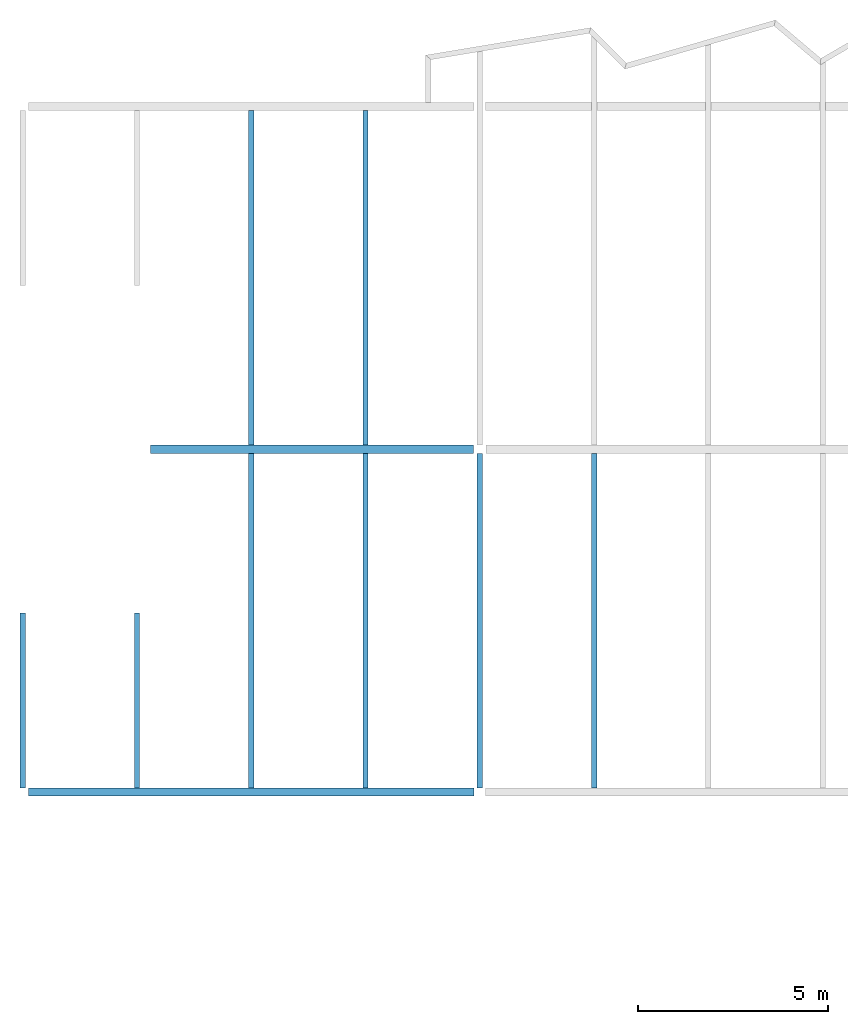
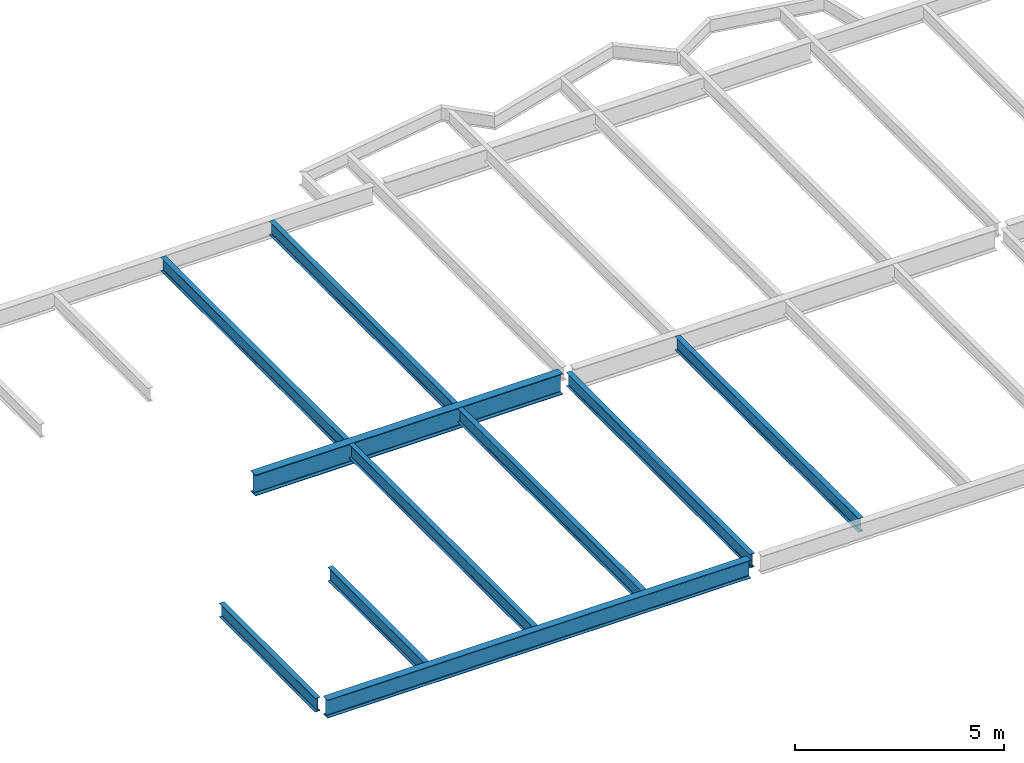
# One storey, part 5 of 26: 10 beams.
"""IFC2X3 building model written with IfcOpenShell, lengths in millimetres."""

from ifc_helpers import new_model, si_unit, origin, place, context, project, spatial, faceted_brep, material, element, save


model = new_model("IFC2X3")

# Units and contexts
context_of_model = context(None, 3, precision=1e-05, world=origin())
ifc_project = project(units=[si_unit("LENGTHUNIT", "METRE", prefix="MILLI")], contexts=[context_of_model])

# Building, storey
building = spatial("IfcBuilding", under=ifc_project, Name="Building", CompositionType="ELEMENT")
storey = spatial("IfcBuildingStorey", under=building, Name="FL4-FRM", CompositionType="ELEMENT")

# Beams
ifc_material_1 = material(Name="A992")
beam_1_placement = place(None, origin())
element("IfcBeam", 1, at=beam_1_placement, inside=storey, material=ifc_material_1, Name="B23", context=context_of_model, shape_type="Brep", body=[
    faceted_brep([(-51070.0, 35895.5, 12974.0), (-50930.0, 35895.5, 12974.0), (-50930.0, 27114.5, 12974.0), (-51070.0, 27114.5, 12974.0), (-50930.0, 35895.5, 12982.8), (-50930.0, 27114.5, 12982.8), (-50986.6, 35895.5, 12982.8), (-50986.6, 27114.5, 12982.8), (-50989.2, 35895.5, 12983.1), (-50989.2, 27114.5, 12983.1), (-50991.7, 35895.5, 12984.2), (-50991.7, 27114.5, 12984.2), (-50993.8, 35895.5, 12985.8), (-50993.8, 27114.5, 12985.8), (-50995.4, 35895.5, 12987.9), (-50995.4, 27114.5, 12987.9), (-50996.5, 35895.5, 12990.4), (-50996.5, 27114.5, 12990.4), (-50996.8, 35895.5, 12993.0), (-50996.8, 27114.5, 12993.0), (-50996.8, 35895.5, 13354.0), (-50996.8, 27114.5, 13354.0), (-50996.5, 35895.5, 13356.6), (-50996.5, 27114.5, 13356.6), (-50995.4, 35895.5, 13359.1), (-50995.4, 27114.5, 13359.1), (-50993.8, 35895.5, 13361.2), (-50993.8, 27114.5, 13361.2), (-50991.7, 35895.5, 13362.8), (-50991.7, 27114.5, 13362.8), (-50989.2, 35895.5, 13363.9), (-50989.2, 27114.5, 13363.9), (-50986.6, 35895.5, 13364.2), (-50986.6, 27114.5, 13364.2), (-50930.0, 35895.5, 13364.2), (-50930.0, 27114.5, 13364.2), (-50930.0, 35895.5, 13373.0), (-50930.0, 27114.5, 13373.0), (-51070.0, 35895.5, 13373.0), (-51070.0, 27114.5, 13373.0), (-51070.0, 35895.5, 13364.2), (-51070.0, 27114.5, 13364.2), (-51013.4, 35895.5, 13364.2), (-51013.4, 27114.5, 13364.2), (-51010.8, 35895.5, 13363.9), (-51010.8, 27114.5, 13363.9), (-51008.3, 35895.5, 13362.8), (-51008.3, 27114.5, 13362.8), (-51006.2, 35895.5, 13361.2), (-51006.2, 27114.5, 13361.2), (-51004.6, 35895.5, 13359.1), (-51004.6, 27114.5, 13359.1), (-51003.5, 35895.5, 13356.6), (-51003.5, 27114.5, 13356.6), (-51003.2, 35895.5, 13354.0), (-51003.2, 27114.5, 13354.0), (-51003.2, 35895.5, 12993.0), (-51003.2, 27114.5, 12993.0), (-51003.5, 35895.5, 12990.4), (-51003.5, 27114.5, 12990.4), (-51004.6, 35895.5, 12987.9), (-51004.6, 27114.5, 12987.9), (-51006.2, 35895.5, 12985.8), (-51006.2, 27114.5, 12985.8), (-51008.3, 35895.5, 12984.2), (-51008.3, 27114.5, 12984.2), (-51010.8, 35895.5, 12983.1), (-51010.8, 27114.5, 12983.1), (-51013.4, 35895.5, 12982.8), (-51013.4, 27114.5, 12982.8), (-51070.0, 35895.5, 12982.8), (-51070.0, 27114.5, 12982.8)], [[[0, 1, 2, 3]], [[1, 4, 5, 2]], [[4, 6, 7, 5]], [[6, 8, 9, 7]], [[8, 10, 11, 9]], [[10, 12, 13, 11]], [[12, 14, 15, 13]], [[14, 16, 17, 15]], [[16, 18, 19, 17]], [[18, 20, 21, 19]], [[20, 22, 23, 21]], [[22, 24, 25, 23]], [[24, 26, 27, 25]], [[26, 28, 29, 27]], [[28, 30, 31, 29]], [[30, 32, 33, 31]], [[32, 34, 35, 33]], [[34, 36, 37, 35]], [[36, 38, 39, 37]], [[38, 40, 41, 39]], [[40, 42, 43, 41]], [[42, 44, 45, 43]], [[44, 46, 47, 45]], [[46, 48, 49, 47]], [[48, 50, 51, 49]], [[50, 52, 53, 51]], [[52, 54, 55, 53]], [[54, 56, 57, 55]], [[56, 58, 59, 57]], [[58, 60, 61, 59]], [[60, 62, 63, 61]], [[62, 64, 65, 63]], [[64, 66, 67, 65]], [[66, 68, 69, 67]], [[68, 70, 71, 69]], [[70, 0, 3, 71]], [[0, 70, 68, 66, 64, 62, 60, 58, 56, 54, 52, 50, 48, 46, 44, 42, 40, 38, 36, 34, 32, 30, 28, 26, 24, 22, 20, 18, 16, 14, 12, 10, 8, 6, 4, 1]], [[3, 2, 5, 7, 9, 11, 13, 15, 17, 19, 21, 23, 25, 27, 29, 31, 33, 35, 37, 39, 41, 43, 45, 47, 49, 51, 53, 55, 57, 59, 61, 63, 65, 67, 69, 71]]]),
])
ifc_material_2 = material(Name="A992")
beam_2_placement = place(None, origin())
element("IfcBeam", 2, at=beam_2_placement, inside=storey, material=ifc_material_2, Name="B24", context=context_of_model, shape_type="Brep", body=[
    faceted_brep([(-54070.0, 35895.5, 12974.0), (-53930.0, 35895.5, 12974.0), (-53930.0, 27114.5, 12974.0), (-54070.0, 27114.5, 12974.0), (-53930.0, 35895.5, 12982.8), (-53930.0, 27114.5, 12982.8), (-53986.6, 35895.5, 12982.8), (-53986.6, 27114.5, 12982.8), (-53989.2, 35895.5, 12983.1), (-53989.2, 27114.5, 12983.1), (-53991.7, 35895.5, 12984.2), (-53991.7, 27114.5, 12984.2), (-53993.8, 35895.5, 12985.8), (-53993.8, 27114.5, 12985.8), (-53995.4, 35895.5, 12987.9), (-53995.4, 27114.5, 12987.9), (-53996.5, 35895.5, 12990.4), (-53996.5, 27114.5, 12990.4), (-53996.8, 35895.5, 12993.0), (-53996.8, 27114.5, 12993.0), (-53996.8, 35895.5, 13354.0), (-53996.8, 27114.5, 13354.0), (-53996.5, 35895.5, 13356.6), (-53996.5, 27114.5, 13356.6), (-53995.4, 35895.5, 13359.1), (-53995.4, 27114.5, 13359.1), (-53993.8, 35895.5, 13361.2), (-53993.8, 27114.5, 13361.2), (-53991.7, 35895.5, 13362.8), (-53991.7, 27114.5, 13362.8), (-53989.2, 35895.5, 13363.9), (-53989.2, 27114.5, 13363.9), (-53986.6, 35895.5, 13364.2), (-53986.6, 27114.5, 13364.2), (-53930.0, 35895.5, 13364.2), (-53930.0, 27114.5, 13364.2), (-53930.0, 35895.5, 13373.0), (-53930.0, 27114.5, 13373.0), (-54070.0, 35895.5, 13373.0), (-54070.0, 27114.5, 13373.0), (-54070.0, 35895.5, 13364.2), (-54070.0, 27114.5, 13364.2), (-54013.4, 35895.5, 13364.2), (-54013.4, 27114.5, 13364.2), (-54010.8, 35895.5, 13363.9), (-54010.8, 27114.5, 13363.9), (-54008.3, 35895.5, 13362.8), (-54008.3, 27114.5, 13362.8), (-54006.2, 35895.5, 13361.2), (-54006.2, 27114.5, 13361.2), (-54004.6, 35895.5, 13359.1), (-54004.6, 27114.5, 13359.1), (-54003.5, 35895.5, 13356.6), (-54003.5, 27114.5, 13356.6), (-54003.2, 35895.5, 13354.0), (-54003.2, 27114.5, 13354.0), (-54003.2, 35895.5, 12993.0), (-54003.2, 27114.5, 12993.0), (-54003.5, 35895.5, 12990.4), (-54003.5, 27114.5, 12990.4), (-54004.6, 35895.5, 12987.9), (-54004.6, 27114.5, 12987.9), (-54006.2, 35895.5, 12985.8), (-54006.2, 27114.5, 12985.8), (-54008.3, 35895.5, 12984.2), (-54008.3, 27114.5, 12984.2), (-54010.8, 35895.5, 12983.1), (-54010.8, 27114.5, 12983.1), (-54013.4, 35895.5, 12982.8), (-54013.4, 27114.5, 12982.8), (-54070.0, 35895.5, 12982.8), (-54070.0, 27114.5, 12982.8)], [[[0, 1, 2, 3]], [[1, 4, 5, 2]], [[4, 6, 7, 5]], [[6, 8, 9, 7]], [[8, 10, 11, 9]], [[10, 12, 13, 11]], [[12, 14, 15, 13]], [[14, 16, 17, 15]], [[16, 18, 19, 17]], [[18, 20, 21, 19]], [[20, 22, 23, 21]], [[22, 24, 25, 23]], [[24, 26, 27, 25]], [[26, 28, 29, 27]], [[28, 30, 31, 29]], [[30, 32, 33, 31]], [[32, 34, 35, 33]], [[34, 36, 37, 35]], [[36, 38, 39, 37]], [[38, 40, 41, 39]], [[40, 42, 43, 41]], [[42, 44, 45, 43]], [[44, 46, 47, 45]], [[46, 48, 49, 47]], [[48, 50, 51, 49]], [[50, 52, 53, 51]], [[52, 54, 55, 53]], [[54, 56, 57, 55]], [[56, 58, 59, 57]], [[58, 60, 61, 59]], [[60, 62, 63, 61]], [[62, 64, 65, 63]], [[64, 66, 67, 65]], [[66, 68, 69, 67]], [[68, 70, 71, 69]], [[70, 0, 3, 71]], [[0, 70, 68, 66, 64, 62, 60, 58, 56, 54, 52, 50, 48, 46, 44, 42, 40, 38, 36, 34, 32, 30, 28, 26, 24, 22, 20, 18, 16, 14, 12, 10, 8, 6, 4, 1]], [[3, 2, 5, 7, 9, 11, 13, 15, 17, 19, 21, 23, 25, 27, 29, 31, 33, 35, 37, 39, 41, 43, 45, 47, 49, 51, 53, 55, 57, 59, 61, 63, 65, 67, 69, 71]]]),
])
ifc_material_3 = material(Name="A992")
beam_3_placement = place(None, origin())
element("IfcBeam", 3, at=beam_3_placement, inside=storey, material=ifc_material_3, Name="Column378", context=context_of_model, shape_type="Brep", body=[
    faceted_brep([(-59848.5, 17895.5, 12845.0), (-59848.5, 18104.5, 12845.0), (-48154.0, 18104.5, 12845.0), (-48154.0, 17895.5, 12845.0), (-59848.5, 18104.5, 12858.3), (-48154.0, 18104.5, 12858.3), (-59848.5, 18017.4, 12858.3), (-48154.0, 18017.4, 12858.3), (-59848.5, 18014.2, 12858.7), (-48154.0, 18014.2, 12858.7), (-59848.5, 18011.1, 12860.0), (-48154.0, 18011.1, 12860.0), (-59848.5, 18008.5, 12862.0), (-48154.0, 18008.5, 12862.0), (-59848.5, 18006.5, 12864.7), (-48154.0, 18006.5, 12864.7), (-59848.5, 18005.2, 12867.7), (-48154.0, 18005.2, 12867.7), (-59848.5, 18004.8, 12871.0), (-48154.0, 18004.8, 12871.0), (-59848.5, 18004.8, 13347.0), (-48154.0, 18004.8, 13347.0), (-59848.5, 18005.2, 13350.3), (-48154.0, 18005.2, 13350.3), (-59848.5, 18006.5, 13353.3), (-48154.0, 18006.5, 13353.3), (-59848.5, 18008.5, 13356.0), (-48154.0, 18008.5, 13356.0), (-59848.5, 18011.1, 13358.0), (-48154.0, 18011.1, 13358.0), (-59848.5, 18014.2, 13359.3), (-48154.0, 18014.2, 13359.3), (-59848.5, 18017.4, 13359.7), (-48154.0, 18017.4, 13359.7), (-59848.5, 18104.5, 13359.7), (-48154.0, 18104.5, 13359.7), (-59848.5, 18104.5, 13373.0), (-48154.0, 18104.5, 13373.0), (-59848.5, 17895.5, 13373.0), (-48154.0, 17895.5, 13373.0), (-59848.5, 17895.5, 13359.7), (-48154.0, 17895.5, 13359.7), (-59848.5, 17982.6, 13359.7), (-48154.0, 17982.6, 13359.7), (-59848.5, 17985.8, 13359.3), (-48154.0, 17985.8, 13359.3), (-59848.5, 17988.9, 13358.0), (-48154.0, 17988.9, 13358.0), (-59848.5, 17991.5, 13356.0), (-48154.0, 17991.5, 13356.0), (-59848.5, 17993.5, 13353.3), (-48154.0, 17993.5, 13353.3), (-59848.5, 17994.8, 13350.3), (-48154.0, 17994.8, 13350.3), (-59848.5, 17995.3, 13347.0), (-48154.0, 17995.3, 13347.0), (-59848.5, 17995.3, 12871.0), (-48154.0, 17995.3, 12871.0), (-59848.5, 17994.8, 12867.7), (-48154.0, 17994.8, 12867.7), (-59848.5, 17993.5, 12864.7), (-48154.0, 17993.5, 12864.7), (-59848.5, 17991.5, 12862.0), (-48154.0, 17991.5, 12862.0), (-59848.5, 17988.9, 12860.0), (-48154.0, 17988.9, 12860.0), (-59848.5, 17985.8, 12858.7), (-48154.0, 17985.8, 12858.7), (-59848.5, 17982.6, 12858.3), (-48154.0, 17982.6, 12858.3), (-59848.5, 17895.5, 12858.3), (-48154.0, 17895.5, 12858.3)], [[[0, 1, 2, 3]], [[1, 4, 5, 2]], [[4, 6, 7, 5]], [[6, 8, 9, 7]], [[8, 10, 11, 9]], [[10, 12, 13, 11]], [[12, 14, 15, 13]], [[14, 16, 17, 15]], [[16, 18, 19, 17]], [[18, 20, 21, 19]], [[20, 22, 23, 21]], [[22, 24, 25, 23]], [[24, 26, 27, 25]], [[26, 28, 29, 27]], [[28, 30, 31, 29]], [[30, 32, 33, 31]], [[32, 34, 35, 33]], [[34, 36, 37, 35]], [[36, 38, 39, 37]], [[38, 40, 41, 39]], [[40, 42, 43, 41]], [[42, 44, 45, 43]], [[44, 46, 47, 45]], [[46, 48, 49, 47]], [[48, 50, 51, 49]], [[50, 52, 53, 51]], [[52, 54, 55, 53]], [[54, 56, 57, 55]], [[56, 58, 59, 57]], [[58, 60, 61, 59]], [[60, 62, 63, 61]], [[62, 64, 65, 63]], [[64, 66, 67, 65]], [[66, 68, 69, 67]], [[68, 70, 71, 69]], [[70, 0, 3, 71]], [[0, 70, 68, 66, 64, 62, 60, 58, 56, 54, 52, 50, 48, 46, 44, 42, 40, 38, 36, 34, 32, 30, 28, 26, 24, 22, 20, 18, 16, 14, 12, 10, 8, 6, 4, 1]], [[3, 2, 5, 7, 9, 11, 13, 15, 17, 19, 21, 23, 25, 27, 29, 31, 33, 35, 37, 39, 41, 43, 45, 47, 49, 51, 53, 55, 57, 59, 61, 63, 65, 67, 69, 71]]]),
])
ifc_material_4 = material(Name="A992")
beam_4_placement = place(None, origin())
element("IfcBeam", 4, at=beam_4_placement, inside=storey, material=ifc_material_4, Name="B188", context=context_of_model, shape_type="Brep", body=[
    faceted_brep([(-47930.0, 18104.5, 12974.0), (-48070.0, 18104.5, 12974.0), (-48070.0, 26885.5, 12974.0), (-47930.0, 26885.5, 12974.0), (-48070.0, 18104.5, 12982.8), (-48070.0, 26885.5, 12982.8), (-48013.4, 18104.5, 12982.8), (-48013.4, 26885.5, 12982.8), (-48010.8, 18104.5, 12983.1), (-48010.8, 26885.5, 12983.1), (-48008.3, 18104.5, 12984.2), (-48008.3, 26885.5, 12984.2), (-48006.2, 18104.5, 12985.8), (-48006.2, 26885.5, 12985.8), (-48004.6, 18104.5, 12987.9), (-48004.6, 26885.5, 12987.9), (-48003.5, 18104.5, 12990.4), (-48003.5, 26885.5, 12990.4), (-48003.2, 18104.5, 12993.0), (-48003.2, 26885.5, 12993.0), (-48003.2, 18104.5, 13354.0), (-48003.2, 26885.5, 13354.0), (-48003.5, 18104.5, 13356.6), (-48003.5, 26885.5, 13356.6), (-48004.6, 18104.5, 13359.1), (-48004.6, 26885.5, 13359.1), (-48006.2, 18104.5, 13361.2), (-48006.2, 26885.5, 13361.2), (-48008.3, 18104.5, 13362.8), (-48008.3, 26885.5, 13362.8), (-48010.8, 18104.5, 13363.9), (-48010.8, 26885.5, 13363.9), (-48013.4, 18104.5, 13364.2), (-48013.4, 26885.5, 13364.2), (-48070.0, 18104.5, 13364.2), (-48070.0, 26885.5, 13364.2), (-48070.0, 18104.5, 13373.0), (-48070.0, 26885.5, 13373.0), (-47930.0, 18104.5, 13373.0), (-47930.0, 26885.5, 13373.0), (-47930.0, 18104.5, 13364.2), (-47930.0, 26885.5, 13364.2), (-47986.6, 18104.5, 13364.2), (-47986.6, 26885.5, 13364.2), (-47989.2, 18104.5, 13363.9), (-47989.2, 26885.5, 13363.9), (-47991.7, 18104.5, 13362.8), (-47991.7, 26885.5, 13362.8), (-47993.8, 18104.5, 13361.2), (-47993.8, 26885.5, 13361.2), (-47995.4, 18104.5, 13359.1), (-47995.4, 26885.5, 13359.1), (-47996.5, 18104.5, 13356.6), (-47996.5, 26885.5, 13356.6), (-47996.8, 18104.5, 13354.0), (-47996.8, 26885.5, 13354.0), (-47996.8, 18104.5, 12993.0), (-47996.8, 26885.5, 12993.0), (-47996.5, 18104.5, 12990.4), (-47996.5, 26885.5, 12990.4), (-47995.4, 18104.5, 12987.9), (-47995.4, 26885.5, 12987.9), (-47993.8, 18104.5, 12985.8), (-47993.8, 26885.5, 12985.8), (-47991.7, 18104.5, 12984.2), (-47991.7, 26885.5, 12984.2), (-47989.2, 18104.5, 12983.1), (-47989.2, 26885.5, 12983.1), (-47986.6, 18104.5, 12982.8), (-47986.6, 26885.5, 12982.8), (-47930.0, 18104.5, 12982.8), (-47930.0, 26885.5, 12982.8)], [[[0, 1, 2, 3]], [[1, 4, 5, 2]], [[4, 6, 7, 5]], [[6, 8, 9, 7]], [[8, 10, 11, 9]], [[10, 12, 13, 11]], [[12, 14, 15, 13]], [[14, 16, 17, 15]], [[16, 18, 19, 17]], [[18, 20, 21, 19]], [[20, 22, 23, 21]], [[22, 24, 25, 23]], [[24, 26, 27, 25]], [[26, 28, 29, 27]], [[28, 30, 31, 29]], [[30, 32, 33, 31]], [[32, 34, 35, 33]], [[34, 36, 37, 35]], [[36, 38, 39, 37]], [[38, 40, 41, 39]], [[40, 42, 43, 41]], [[42, 44, 45, 43]], [[44, 46, 47, 45]], [[46, 48, 49, 47]], [[48, 50, 51, 49]], [[50, 52, 53, 51]], [[52, 54, 55, 53]], [[54, 56, 57, 55]], [[56, 58, 59, 57]], [[58, 60, 61, 59]], [[60, 62, 63, 61]], [[62, 64, 65, 63]], [[64, 66, 67, 65]], [[66, 68, 69, 67]], [[68, 70, 71, 69]], [[70, 0, 3, 71]], [[0, 70, 68, 66, 64, 62, 60, 58, 56, 54, 52, 50, 48, 46, 44, 42, 40, 38, 36, 34, 32, 30, 28, 26, 24, 22, 20, 18, 16, 14, 12, 10, 8, 6, 4, 1]], [[3, 2, 5, 7, 9, 11, 13, 15, 17, 19, 21, 23, 25, 27, 29, 31, 33, 35, 37, 39, 41, 43, 45, 47, 49, 51, 53, 55, 57, 59, 61, 63, 65, 67, 69, 71]]]),
])
ifc_material_5 = material(Name="A992")
beam_5_placement = place(None, origin())
element("IfcBeam", 5, at=beam_5_placement, inside=storey, material=ifc_material_5, Name="B189", context=context_of_model, shape_type="Brep", body=[
    faceted_brep([(-44930.0, 18104.5, 12974.0), (-45070.0, 18104.5, 12974.0), (-45070.0, 26885.5, 12974.0), (-44930.0, 26885.5, 12974.0), (-45070.0, 18104.5, 12982.8), (-45070.0, 26885.5, 12982.8), (-45013.4, 18104.5, 12982.8), (-45013.4, 26885.5, 12982.8), (-45010.8, 18104.5, 12983.1), (-45010.8, 26885.5, 12983.1), (-45008.3, 18104.5, 12984.2), (-45008.3, 26885.5, 12984.2), (-45006.2, 18104.5, 12985.8), (-45006.2, 26885.5, 12985.8), (-45004.6, 18104.5, 12987.9), (-45004.6, 26885.5, 12987.9), (-45003.5, 18104.5, 12990.4), (-45003.5, 26885.5, 12990.4), (-45003.2, 18104.5, 12993.0), (-45003.2, 26885.5, 12993.0), (-45003.2, 18104.5, 13354.0), (-45003.2, 26885.5, 13354.0), (-45003.5, 18104.5, 13356.6), (-45003.5, 26885.5, 13356.6), (-45004.6, 18104.5, 13359.1), (-45004.6, 26885.5, 13359.1), (-45006.2, 18104.5, 13361.2), (-45006.2, 26885.5, 13361.2), (-45008.3, 18104.5, 13362.8), (-45008.3, 26885.5, 13362.8), (-45010.8, 18104.5, 13363.9), (-45010.8, 26885.5, 13363.9), (-45013.4, 18104.5, 13364.2), (-45013.4, 26885.5, 13364.2), (-45070.0, 18104.5, 13364.2), (-45070.0, 26885.5, 13364.2), (-45070.0, 18104.5, 13373.0), (-45070.0, 26885.5, 13373.0), (-44930.0, 18104.5, 13373.0), (-44930.0, 26885.5, 13373.0), (-44930.0, 18104.5, 13364.2), (-44930.0, 26885.5, 13364.2), (-44986.6, 18104.5, 13364.2), (-44986.6, 26885.5, 13364.2), (-44989.2, 18104.5, 13363.9), (-44989.2, 26885.5, 13363.9), (-44991.7, 18104.5, 13362.8), (-44991.7, 26885.5, 13362.8), (-44993.8, 18104.5, 13361.2), (-44993.8, 26885.5, 13361.2), (-44995.4, 18104.5, 13359.1), (-44995.4, 26885.5, 13359.1), (-44996.5, 18104.5, 13356.6), (-44996.5, 26885.5, 13356.6), (-44996.8, 18104.5, 13354.0), (-44996.8, 26885.5, 13354.0), (-44996.8, 18104.5, 12993.0), (-44996.8, 26885.5, 12993.0), (-44996.5, 18104.5, 12990.4), (-44996.5, 26885.5, 12990.4), (-44995.4, 18104.5, 12987.9), (-44995.4, 26885.5, 12987.9), (-44993.8, 18104.5, 12985.8), (-44993.8, 26885.5, 12985.8), (-44991.7, 18104.5, 12984.2), (-44991.7, 26885.5, 12984.2), (-44989.2, 18104.5, 12983.1), (-44989.2, 26885.5, 12983.1), (-44986.6, 18104.5, 12982.8), (-44986.6, 26885.5, 12982.8), (-44930.0, 18104.5, 12982.8), (-44930.0, 26885.5, 12982.8)], [[[0, 1, 2, 3]], [[1, 4, 5, 2]], [[4, 6, 7, 5]], [[6, 8, 9, 7]], [[8, 10, 11, 9]], [[10, 12, 13, 11]], [[12, 14, 15, 13]], [[14, 16, 17, 15]], [[16, 18, 19, 17]], [[18, 20, 21, 19]], [[20, 22, 23, 21]], [[22, 24, 25, 23]], [[24, 26, 27, 25]], [[26, 28, 29, 27]], [[28, 30, 31, 29]], [[30, 32, 33, 31]], [[32, 34, 35, 33]], [[34, 36, 37, 35]], [[36, 38, 39, 37]], [[38, 40, 41, 39]], [[40, 42, 43, 41]], [[42, 44, 45, 43]], [[44, 46, 47, 45]], [[46, 48, 49, 47]], [[48, 50, 51, 49]], [[50, 52, 53, 51]], [[52, 54, 55, 53]], [[54, 56, 57, 55]], [[56, 58, 59, 57]], [[58, 60, 61, 59]], [[60, 62, 63, 61]], [[62, 64, 65, 63]], [[64, 66, 67, 65]], [[66, 68, 69, 67]], [[68, 70, 71, 69]], [[70, 0, 3, 71]], [[0, 70, 68, 66, 64, 62, 60, 58, 56, 54, 52, 50, 48, 46, 44, 42, 40, 38, 36, 34, 32, 30, 28, 26, 24, 22, 20, 18, 16, 14, 12, 10, 8, 6, 4, 1]], [[3, 2, 5, 7, 9, 11, 13, 15, 17, 19, 21, 23, 25, 27, 29, 31, 33, 35, 37, 39, 41, 43, 45, 47, 49, 51, 53, 55, 57, 59, 61, 63, 65, 67, 69, 71]]]),
])
ifc_material_6 = material(Name="A992")
beam_6_placement = place(None, origin())
element("IfcBeam", 6, at=beam_6_placement, inside=storey, material=ifc_material_6, Name="B195", context=context_of_model, shape_type="Brep", body=[
    faceted_brep([(-50930.0, 18104.5, 12974.0), (-51070.0, 18104.5, 12974.0), (-51070.0, 26885.5, 12974.0), (-50930.0, 26885.5, 12974.0), (-51070.0, 18104.5, 12982.8), (-51070.0, 26885.5, 12982.8), (-51013.4, 18104.5, 12982.8), (-51013.4, 26885.5, 12982.8), (-51010.8, 18104.5, 12983.1), (-51010.8, 26885.5, 12983.1), (-51008.3, 18104.5, 12984.2), (-51008.3, 26885.5, 12984.2), (-51006.2, 18104.5, 12985.8), (-51006.2, 26885.5, 12985.8), (-51004.6, 18104.5, 12987.9), (-51004.6, 26885.5, 12987.9), (-51003.5, 18104.5, 12990.4), (-51003.5, 26885.5, 12990.4), (-51003.2, 18104.5, 12993.0), (-51003.2, 26885.5, 12993.0), (-51003.2, 18104.5, 13354.0), (-51003.2, 26885.5, 13354.0), (-51003.5, 18104.5, 13356.6), (-51003.5, 26885.5, 13356.6), (-51004.6, 18104.5, 13359.1), (-51004.6, 26885.5, 13359.1), (-51006.2, 18104.5, 13361.2), (-51006.2, 26885.5, 13361.2), (-51008.3, 18104.5, 13362.8), (-51008.3, 26885.5, 13362.8), (-51010.8, 18104.5, 13363.9), (-51010.8, 26885.5, 13363.9), (-51013.4, 18104.5, 13364.2), (-51013.4, 26885.5, 13364.2), (-51070.0, 18104.5, 13364.2), (-51070.0, 26885.5, 13364.2), (-51070.0, 18104.5, 13373.0), (-51070.0, 26885.5, 13373.0), (-50930.0, 18104.5, 13373.0), (-50930.0, 26885.5, 13373.0), (-50930.0, 18104.5, 13364.2), (-50930.0, 26885.5, 13364.2), (-50986.6, 18104.5, 13364.2), (-50986.6, 26885.5, 13364.2), (-50989.2, 18104.5, 13363.9), (-50989.2, 26885.5, 13363.9), (-50991.7, 18104.5, 13362.8), (-50991.7, 26885.5, 13362.8), (-50993.8, 18104.5, 13361.2), (-50993.8, 26885.5, 13361.2), (-50995.4, 18104.5, 13359.1), (-50995.4, 26885.5, 13359.1), (-50996.5, 18104.5, 13356.6), (-50996.5, 26885.5, 13356.6), (-50996.8, 18104.5, 13354.0), (-50996.8, 26885.5, 13354.0), (-50996.8, 18104.5, 12993.0), (-50996.8, 26885.5, 12993.0), (-50996.5, 18104.5, 12990.4), (-50996.5, 26885.5, 12990.4), (-50995.4, 18104.5, 12987.9), (-50995.4, 26885.5, 12987.9), (-50993.8, 18104.5, 12985.8), (-50993.8, 26885.5, 12985.8), (-50991.7, 18104.5, 12984.2), (-50991.7, 26885.5, 12984.2), (-50989.2, 18104.5, 12983.1), (-50989.2, 26885.5, 12983.1), (-50986.6, 18104.5, 12982.8), (-50986.6, 26885.5, 12982.8), (-50930.0, 18104.5, 12982.8), (-50930.0, 26885.5, 12982.8)], [[[0, 1, 2, 3]], [[1, 4, 5, 2]], [[4, 6, 7, 5]], [[6, 8, 9, 7]], [[8, 10, 11, 9]], [[10, 12, 13, 11]], [[12, 14, 15, 13]], [[14, 16, 17, 15]], [[16, 18, 19, 17]], [[18, 20, 21, 19]], [[20, 22, 23, 21]], [[22, 24, 25, 23]], [[24, 26, 27, 25]], [[26, 28, 29, 27]], [[28, 30, 31, 29]], [[30, 32, 33, 31]], [[32, 34, 35, 33]], [[34, 36, 37, 35]], [[36, 38, 39, 37]], [[38, 40, 41, 39]], [[40, 42, 43, 41]], [[42, 44, 45, 43]], [[44, 46, 47, 45]], [[46, 48, 49, 47]], [[48, 50, 51, 49]], [[50, 52, 53, 51]], [[52, 54, 55, 53]], [[54, 56, 57, 55]], [[56, 58, 59, 57]], [[58, 60, 61, 59]], [[60, 62, 63, 61]], [[62, 64, 65, 63]], [[64, 66, 67, 65]], [[66, 68, 69, 67]], [[68, 70, 71, 69]], [[70, 0, 3, 71]], [[0, 70, 68, 66, 64, 62, 60, 58, 56, 54, 52, 50, 48, 46, 44, 42, 40, 38, 36, 34, 32, 30, 28, 26, 24, 22, 20, 18, 16, 14, 12, 10, 8, 6, 4, 1]], [[3, 2, 5, 7, 9, 11, 13, 15, 17, 19, 21, 23, 25, 27, 29, 31, 33, 35, 37, 39, 41, 43, 45, 47, 49, 51, 53, 55, 57, 59, 61, 63, 65, 67, 69, 71]]]),
])
ifc_material_7 = material(Name="A992")
beam_7_placement = place(None, origin())
element("IfcBeam", 7, at=beam_7_placement, inside=storey, material=ifc_material_7, Name="B196", context=context_of_model, shape_type="Brep", body=[
    faceted_brep([(-53930.0, 18104.5, 12974.0), (-54070.0, 18104.5, 12974.0), (-54070.0, 26885.5, 12974.0), (-53930.0, 26885.5, 12974.0), (-54070.0, 18104.5, 12982.8), (-54070.0, 26885.5, 12982.8), (-54013.4, 18104.5, 12982.8), (-54013.4, 26885.5, 12982.8), (-54010.8, 18104.5, 12983.1), (-54010.8, 26885.5, 12983.1), (-54008.3, 18104.5, 12984.2), (-54008.3, 26885.5, 12984.2), (-54006.2, 18104.5, 12985.8), (-54006.2, 26885.5, 12985.8), (-54004.6, 18104.5, 12987.9), (-54004.6, 26885.5, 12987.9), (-54003.5, 18104.5, 12990.4), (-54003.5, 26885.5, 12990.4), (-54003.2, 18104.5, 12993.0), (-54003.2, 26885.5, 12993.0), (-54003.2, 18104.5, 13354.0), (-54003.2, 26885.5, 13354.0), (-54003.5, 18104.5, 13356.6), (-54003.5, 26885.5, 13356.6), (-54004.6, 18104.5, 13359.1), (-54004.6, 26885.5, 13359.1), (-54006.2, 18104.5, 13361.2), (-54006.2, 26885.5, 13361.2), (-54008.3, 18104.5, 13362.8), (-54008.3, 26885.5, 13362.8), (-54010.8, 18104.5, 13363.9), (-54010.8, 26885.5, 13363.9), (-54013.4, 18104.5, 13364.2), (-54013.4, 26885.5, 13364.2), (-54070.0, 18104.5, 13364.2), (-54070.0, 26885.5, 13364.2), (-54070.0, 18104.5, 13373.0), (-54070.0, 26885.5, 13373.0), (-53930.0, 18104.5, 13373.0), (-53930.0, 26885.5, 13373.0), (-53930.0, 18104.5, 13364.2), (-53930.0, 26885.5, 13364.2), (-53986.6, 18104.5, 13364.2), (-53986.6, 26885.5, 13364.2), (-53989.2, 18104.5, 13363.9), (-53989.2, 26885.5, 13363.9), (-53991.7, 18104.5, 13362.8), (-53991.7, 26885.5, 13362.8), (-53993.8, 18104.5, 13361.2), (-53993.8, 26885.5, 13361.2), (-53995.4, 18104.5, 13359.1), (-53995.4, 26885.5, 13359.1), (-53996.5, 18104.5, 13356.6), (-53996.5, 26885.5, 13356.6), (-53996.8, 18104.5, 13354.0), (-53996.8, 26885.5, 13354.0), (-53996.8, 18104.5, 12993.0), (-53996.8, 26885.5, 12993.0), (-53996.5, 18104.5, 12990.4), (-53996.5, 26885.5, 12990.4), (-53995.4, 18104.5, 12987.9), (-53995.4, 26885.5, 12987.9), (-53993.8, 18104.5, 12985.8), (-53993.8, 26885.5, 12985.8), (-53991.7, 18104.5, 12984.2), (-53991.7, 26885.5, 12984.2), (-53989.2, 18104.5, 12983.1), (-53989.2, 26885.5, 12983.1), (-53986.6, 18104.5, 12982.8), (-53986.6, 26885.5, 12982.8), (-53930.0, 18104.5, 12982.8), (-53930.0, 26885.5, 12982.8)], [[[0, 1, 2, 3]], [[1, 4, 5, 2]], [[4, 6, 7, 5]], [[6, 8, 9, 7]], [[8, 10, 11, 9]], [[10, 12, 13, 11]], [[12, 14, 15, 13]], [[14, 16, 17, 15]], [[16, 18, 19, 17]], [[18, 20, 21, 19]], [[20, 22, 23, 21]], [[22, 24, 25, 23]], [[24, 26, 27, 25]], [[26, 28, 29, 27]], [[28, 30, 31, 29]], [[30, 32, 33, 31]], [[32, 34, 35, 33]], [[34, 36, 37, 35]], [[36, 38, 39, 37]], [[38, 40, 41, 39]], [[40, 42, 43, 41]], [[42, 44, 45, 43]], [[44, 46, 47, 45]], [[46, 48, 49, 47]], [[48, 50, 51, 49]], [[50, 52, 53, 51]], [[52, 54, 55, 53]], [[54, 56, 57, 55]], [[56, 58, 59, 57]], [[58, 60, 61, 59]], [[60, 62, 63, 61]], [[62, 64, 65, 63]], [[64, 66, 67, 65]], [[66, 68, 69, 67]], [[68, 70, 71, 69]], [[70, 0, 3, 71]], [[0, 70, 68, 66, 64, 62, 60, 58, 56, 54, 52, 50, 48, 46, 44, 42, 40, 38, 36, 34, 32, 30, 28, 26, 24, 22, 20, 18, 16, 14, 12, 10, 8, 6, 4, 1]], [[3, 2, 5, 7, 9, 11, 13, 15, 17, 19, 21, 23, 25, 27, 29, 31, 33, 35, 37, 39, 41, 43, 45, 47, 49, 51, 53, 55, 57, 59, 61, 63, 65, 67, 69, 71]]]),
])
ifc_material_8 = material(Name="A992")
beam_8_placement = place(None, origin())
element("IfcBeam", 8, at=beam_8_placement, inside=storey, material=ifc_material_8, Name="Column621", context=context_of_model, shape_type="Brep", body=[
    faceted_brep([(-56650.0, 26885.5, 12761.0), (-56650.0, 27114.5, 12761.0), (-48163.5, 27114.5, 12761.0), (-48163.5, 26885.5, 12761.0), (-56650.0, 27114.5, 12780.6), (-48163.5, 27114.5, 12780.6), (-56650.0, 27018.6, 12780.6), (-48163.5, 27018.6, 12780.6), (-56650.0, 27015.4, 12781.0), (-48163.5, 27015.4, 12781.0), (-56650.0, 27012.3, 12782.3), (-48163.5, 27012.3, 12782.3), (-56650.0, 27009.7, 12784.3), (-48163.5, 27009.7, 12784.3), (-56650.0, 27007.7, 12787.0), (-48163.5, 27007.7, 12787.0), (-56650.0, 27006.4, 12790.0), (-48163.5, 27006.4, 12790.0), (-56650.0, 27005.9, 12793.3), (-48163.5, 27005.9, 12793.3), (-56650.0, 27005.9, 13340.7), (-48163.5, 27005.9, 13340.7), (-56650.0, 27006.4, 13344.0), (-48163.5, 27006.4, 13344.0), (-56650.0, 27007.7, 13347.0), (-48163.5, 27007.7, 13347.0), (-56650.0, 27009.7, 13349.7), (-48163.5, 27009.7, 13349.7), (-56650.0, 27012.3, 13351.7), (-48163.5, 27012.3, 13351.7), (-56650.0, 27015.4, 13353.0), (-48163.5, 27015.4, 13353.0), (-56650.0, 27018.6, 13353.4), (-48163.5, 27018.6, 13353.4), (-56650.0, 27114.5, 13353.4), (-48163.5, 27114.5, 13353.4), (-56650.0, 27114.5, 13373.0), (-48163.5, 27114.5, 13373.0), (-56650.0, 26885.5, 13373.0), (-48163.5, 26885.5, 13373.0), (-56650.0, 26885.5, 13353.4), (-48163.5, 26885.5, 13353.4), (-56650.0, 26981.4, 13353.4), (-48163.5, 26981.4, 13353.4), (-56650.0, 26984.6, 13353.0), (-48163.5, 26984.6, 13353.0), (-56650.0, 26987.7, 13351.7), (-48163.5, 26987.7, 13351.7), (-56650.0, 26990.3, 13349.7), (-48163.5, 26990.3, 13349.7), (-56650.0, 26992.3, 13347.0), (-48163.5, 26992.3, 13347.0), (-56650.0, 26993.6, 13344.0), (-48163.5, 26993.6, 13344.0), (-56650.0, 26994.1, 13340.7), (-48163.5, 26994.1, 13340.7), (-56650.0, 26994.1, 12793.3), (-48163.5, 26994.1, 12793.3), (-56650.0, 26993.6, 12790.0), (-48163.5, 26993.6, 12790.0), (-56650.0, 26992.3, 12787.0), (-48163.5, 26992.3, 12787.0), (-56650.0, 26990.3, 12784.3), (-48163.5, 26990.3, 12784.3), (-56650.0, 26987.7, 12782.3), (-48163.5, 26987.7, 12782.3), (-56650.0, 26984.6, 12781.0), (-48163.5, 26984.6, 12781.0), (-56650.0, 26981.4, 12780.6), (-48163.5, 26981.4, 12780.6), (-56650.0, 26885.5, 12780.6), (-48163.5, 26885.5, 12780.6)], [[[0, 1, 2, 3]], [[1, 4, 5, 2]], [[4, 6, 7, 5]], [[6, 8, 9, 7]], [[8, 10, 11, 9]], [[10, 12, 13, 11]], [[12, 14, 15, 13]], [[14, 16, 17, 15]], [[16, 18, 19, 17]], [[18, 20, 21, 19]], [[20, 22, 23, 21]], [[22, 24, 25, 23]], [[24, 26, 27, 25]], [[26, 28, 29, 27]], [[28, 30, 31, 29]], [[30, 32, 33, 31]], [[32, 34, 35, 33]], [[34, 36, 37, 35]], [[36, 38, 39, 37]], [[38, 40, 41, 39]], [[40, 42, 43, 41]], [[42, 44, 45, 43]], [[44, 46, 47, 45]], [[46, 48, 49, 47]], [[48, 50, 51, 49]], [[50, 52, 53, 51]], [[52, 54, 55, 53]], [[54, 56, 57, 55]], [[56, 58, 59, 57]], [[58, 60, 61, 59]], [[60, 62, 63, 61]], [[62, 64, 65, 63]], [[64, 66, 67, 65]], [[66, 68, 69, 67]], [[68, 70, 71, 69]], [[70, 0, 3, 71]], [[0, 70, 68, 66, 64, 62, 60, 58, 56, 54, 52, 50, 48, 46, 44, 42, 40, 38, 36, 34, 32, 30, 28, 26, 24, 22, 20, 18, 16, 14, 12, 10, 8, 6, 4, 1]], [[3, 2, 5, 7, 9, 11, 13, 15, 17, 19, 21, 23, 25, 27, 29, 31, 33, 35, 37, 39, 41, 43, 45, 47, 49, 51, 53, 55, 57, 59, 61, 63, 65, 67, 69, 71]]]),
])
ifc_material_9 = material(Name="A992")
beam_9_placement = place(None, origin())
element("IfcBeam", 9, at=beam_9_placement, inside=storey, material=ifc_material_9, Name="B1033", context=context_of_model, shape_type="Brep", body=[
    faceted_brep([(-56930.0, 18104.5, 12974.0), (-57070.0, 18104.5, 12974.0), (-57070.0, 22700.0, 12974.0), (-56930.0, 22700.0, 12974.0), (-57070.0, 18104.5, 12982.8), (-57070.0, 22700.0, 12982.8), (-57013.4, 18104.5, 12982.8), (-57013.4, 22700.0, 12982.8), (-57010.8, 18104.5, 12983.1), (-57010.8, 22700.0, 12983.1), (-57008.3, 18104.5, 12984.2), (-57008.3, 22700.0, 12984.2), (-57006.2, 18104.5, 12985.8), (-57006.2, 22700.0, 12985.8), (-57004.6, 18104.5, 12987.9), (-57004.6, 22700.0, 12987.9), (-57003.5, 18104.5, 12990.4), (-57003.5, 22700.0, 12990.4), (-57003.2, 18104.5, 12993.0), (-57003.2, 22700.0, 12993.0), (-57003.2, 18104.5, 13354.0), (-57003.2, 22700.0, 13354.0), (-57003.5, 18104.5, 13356.6), (-57003.5, 22700.0, 13356.6), (-57004.6, 18104.5, 13359.1), (-57004.6, 22700.0, 13359.1), (-57006.2, 18104.5, 13361.2), (-57006.2, 22700.0, 13361.2), (-57008.3, 18104.5, 13362.8), (-57008.3, 22700.0, 13362.8), (-57010.8, 18104.5, 13363.9), (-57010.8, 22700.0, 13363.9), (-57013.4, 18104.5, 13364.2), (-57013.4, 22700.0, 13364.2), (-57070.0, 18104.5, 13364.2), (-57070.0, 22700.0, 13364.2), (-57070.0, 18104.5, 13373.0), (-57070.0, 22700.0, 13373.0), (-56930.0, 18104.5, 13373.0), (-56930.0, 22700.0, 13373.0), (-56930.0, 18104.5, 13364.2), (-56930.0, 22700.0, 13364.2), (-56986.6, 18104.5, 13364.2), (-56986.6, 22700.0, 13364.2), (-56989.2, 18104.5, 13363.9), (-56989.2, 22700.0, 13363.9), (-56991.7, 18104.5, 13362.8), (-56991.7, 22700.0, 13362.8), (-56993.8, 18104.5, 13361.2), (-56993.8, 22700.0, 13361.2), (-56995.4, 18104.5, 13359.1), (-56995.4, 22700.0, 13359.1), (-56996.5, 18104.5, 13356.6), (-56996.5, 22700.0, 13356.6), (-56996.8, 18104.5, 13354.0), (-56996.8, 22700.0, 13354.0), (-56996.8, 18104.5, 12993.0), (-56996.8, 22700.0, 12993.0), (-56996.5, 18104.5, 12990.4), (-56996.5, 22700.0, 12990.4), (-56995.4, 18104.5, 12987.9), (-56995.4, 22700.0, 12987.9), (-56993.8, 18104.5, 12985.8), (-56993.8, 22700.0, 12985.8), (-56991.7, 18104.5, 12984.2), (-56991.7, 22700.0, 12984.2), (-56989.2, 18104.5, 12983.1), (-56989.2, 22700.0, 12983.1), (-56986.6, 18104.5, 12982.8), (-56986.6, 22700.0, 12982.8), (-56930.0, 18104.5, 12982.8), (-56930.0, 22700.0, 12982.8)], [[[0, 1, 2, 3]], [[1, 4, 5, 2]], [[4, 6, 7, 5]], [[6, 8, 9, 7]], [[8, 10, 11, 9]], [[10, 12, 13, 11]], [[12, 14, 15, 13]], [[14, 16, 17, 15]], [[16, 18, 19, 17]], [[18, 20, 21, 19]], [[20, 22, 23, 21]], [[22, 24, 25, 23]], [[24, 26, 27, 25]], [[26, 28, 29, 27]], [[28, 30, 31, 29]], [[30, 32, 33, 31]], [[32, 34, 35, 33]], [[34, 36, 37, 35]], [[36, 38, 39, 37]], [[38, 40, 41, 39]], [[40, 42, 43, 41]], [[42, 44, 45, 43]], [[44, 46, 47, 45]], [[46, 48, 49, 47]], [[48, 50, 51, 49]], [[50, 52, 53, 51]], [[52, 54, 55, 53]], [[54, 56, 57, 55]], [[56, 58, 59, 57]], [[58, 60, 61, 59]], [[60, 62, 63, 61]], [[62, 64, 65, 63]], [[64, 66, 67, 65]], [[66, 68, 69, 67]], [[68, 70, 71, 69]], [[70, 0, 3, 71]], [[0, 70, 68, 66, 64, 62, 60, 58, 56, 54, 52, 50, 48, 46, 44, 42, 40, 38, 36, 34, 32, 30, 28, 26, 24, 22, 20, 18, 16, 14, 12, 10, 8, 6, 4, 1]], [[3, 2, 5, 7, 9, 11, 13, 15, 17, 19, 21, 23, 25, 27, 29, 31, 33, 35, 37, 39, 41, 43, 45, 47, 49, 51, 53, 55, 57, 59, 61, 63, 65, 67, 69, 71]]]),
])
ifc_material_10 = material(Name="A992")
beam_10_placement = place(None, origin())
element("IfcBeam", 10, at=beam_10_placement, inside=storey, material=ifc_material_10, Name="B1036", context=context_of_model, shape_type="Brep", body=[
    faceted_brep([(-59930.0, 18104.5, 12974.0), (-60070.0, 18104.5, 12974.0), (-60070.0, 22700.0, 12974.0), (-59930.0, 22700.0, 12974.0), (-60070.0, 18104.5, 12982.8), (-60070.0, 22700.0, 12982.8), (-60013.4, 18104.5, 12982.8), (-60013.4, 22700.0, 12982.8), (-60010.8, 18104.5, 12983.1), (-60010.8, 22700.0, 12983.1), (-60008.3, 18104.5, 12984.2), (-60008.3, 22700.0, 12984.2), (-60006.2, 18104.5, 12985.8), (-60006.2, 22700.0, 12985.8), (-60004.6, 18104.5, 12987.9), (-60004.6, 22700.0, 12987.9), (-60003.5, 18104.5, 12990.4), (-60003.5, 22700.0, 12990.4), (-60003.2, 18104.5, 12993.0), (-60003.2, 22700.0, 12993.0), (-60003.2, 18104.5, 13354.0), (-60003.2, 22700.0, 13354.0), (-60003.5, 18104.5, 13356.6), (-60003.5, 22700.0, 13356.6), (-60004.6, 18104.5, 13359.1), (-60004.6, 22700.0, 13359.1), (-60006.2, 18104.5, 13361.2), (-60006.2, 22700.0, 13361.2), (-60008.3, 18104.5, 13362.8), (-60008.3, 22700.0, 13362.8), (-60010.8, 18104.5, 13363.9), (-60010.8, 22700.0, 13363.9), (-60013.4, 18104.5, 13364.2), (-60013.4, 22700.0, 13364.2), (-60070.0, 18104.5, 13364.2), (-60070.0, 22700.0, 13364.2), (-60070.0, 18104.5, 13373.0), (-60070.0, 22700.0, 13373.0), (-59930.0, 18104.5, 13373.0), (-59930.0, 22700.0, 13373.0), (-59930.0, 18104.5, 13364.2), (-59930.0, 22700.0, 13364.2), (-59986.6, 18104.5, 13364.2), (-59986.6, 22700.0, 13364.2), (-59989.2, 18104.5, 13363.9), (-59989.2, 22700.0, 13363.9), (-59991.7, 18104.5, 13362.8), (-59991.7, 22700.0, 13362.8), (-59993.8, 18104.5, 13361.2), (-59993.8, 22700.0, 13361.2), (-59995.4, 18104.5, 13359.1), (-59995.4, 22700.0, 13359.1), (-59996.5, 18104.5, 13356.6), (-59996.5, 22700.0, 13356.6), (-59996.8, 18104.5, 13354.0), (-59996.8, 22700.0, 13354.0), (-59996.8, 18104.5, 12993.0), (-59996.8, 22700.0, 12993.0), (-59996.5, 18104.5, 12990.4), (-59996.5, 22700.0, 12990.4), (-59995.4, 18104.5, 12987.9), (-59995.4, 22700.0, 12987.9), (-59993.8, 18104.5, 12985.8), (-59993.8, 22700.0, 12985.8), (-59991.7, 18104.5, 12984.2), (-59991.7, 22700.0, 12984.2), (-59989.2, 18104.5, 12983.1), (-59989.2, 22700.0, 12983.1), (-59986.6, 18104.5, 12982.8), (-59986.6, 22700.0, 12982.8), (-59930.0, 18104.5, 12982.8), (-59930.0, 22700.0, 12982.8)], [[[0, 1, 2, 3]], [[1, 4, 5, 2]], [[4, 6, 7, 5]], [[6, 8, 9, 7]], [[8, 10, 11, 9]], [[10, 12, 13, 11]], [[12, 14, 15, 13]], [[14, 16, 17, 15]], [[16, 18, 19, 17]], [[18, 20, 21, 19]], [[20, 22, 23, 21]], [[22, 24, 25, 23]], [[24, 26, 27, 25]], [[26, 28, 29, 27]], [[28, 30, 31, 29]], [[30, 32, 33, 31]], [[32, 34, 35, 33]], [[34, 36, 37, 35]], [[36, 38, 39, 37]], [[38, 40, 41, 39]], [[40, 42, 43, 41]], [[42, 44, 45, 43]], [[44, 46, 47, 45]], [[46, 48, 49, 47]], [[48, 50, 51, 49]], [[50, 52, 53, 51]], [[52, 54, 55, 53]], [[54, 56, 57, 55]], [[56, 58, 59, 57]], [[58, 60, 61, 59]], [[60, 62, 63, 61]], [[62, 64, 65, 63]], [[64, 66, 67, 65]], [[66, 68, 69, 67]], [[68, 70, 71, 69]], [[70, 0, 3, 71]], [[0, 70, 68, 66, 64, 62, 60, 58, 56, 54, 52, 50, 48, 46, 44, 42, 40, 38, 36, 34, 32, 30, 28, 26, 24, 22, 20, 18, 16, 14, 12, 10, 8, 6, 4, 1]], [[3, 2, 5, 7, 9, 11, 13, 15, 17, 19, 21, 23, 25, 27, 29, 31, 33, 35, 37, 39, 41, 43, 45, 47, 49, 51, 53, 55, 57, 59, 61, 63, 65, 67, 69, 71]]]),
])

save(model, "model.ifc")
